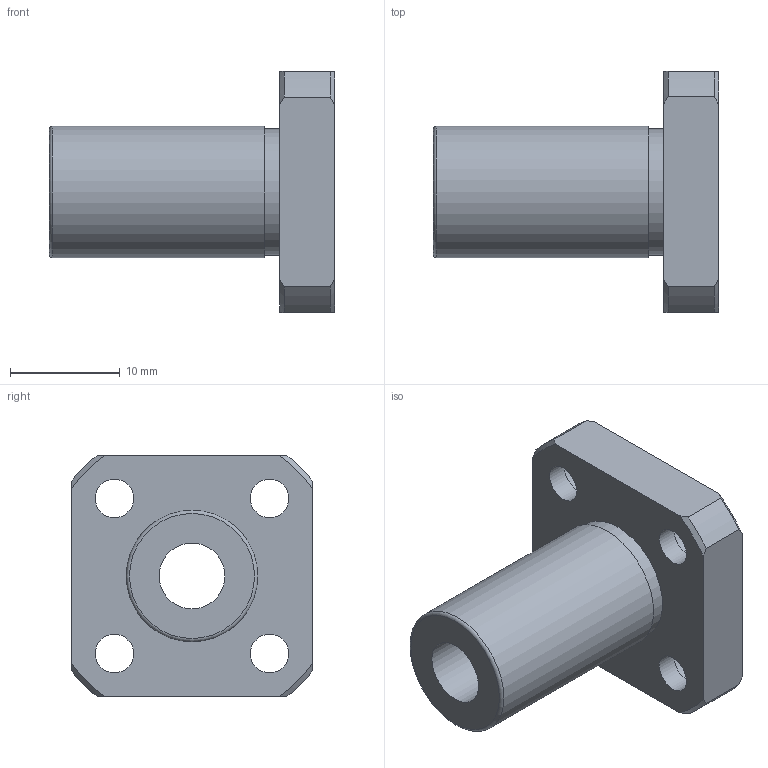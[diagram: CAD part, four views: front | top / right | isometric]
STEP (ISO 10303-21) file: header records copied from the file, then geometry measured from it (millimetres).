
FILE_DESCRIPTION(('STEP AP203'),'1');
FILE_NAME('//192.168.1.1/share/s-4 技術開発/s-4-4_CAD/s-4-4-3_見直し済み/002 修正済み/NFES-VM/NFES-6VM.step','2022-02-04T06:29:38',(' '),(' '),'Spatial InterOp 3D',' ',' ');
FILE_SCHEMA(('CONFIG_CONTROL_DESIGN'));
Length unit declared in the file: millimetre
Products named in the file (1): 1
Bounding box: 26 x 22 x 22 mm (x, y, z)
Volume: 3569.8 mm3; surface area: 2829.8 mm2
Topology: 1 solids, 1 shells, 36 faces, 93 edges, 65 vertices
Faces by surface type: cylinder 15, plane 12, cone 8, torus 1
Full cylindrical faces by diameter (mm): 3.5 x4, 6 x5, 11.5 x1, 12 x1
Entity records: 1026 total; most frequent: CARTESIAN_POINT 195, DIRECTION 168, ORIENTED_EDGE 142, AXIS2_PLACEMENT_3D 76, EDGE_CURVE 71, EDGE_LOOP 64, VERTEX_POINT 55, FACE_OUTER_BOUND 48
